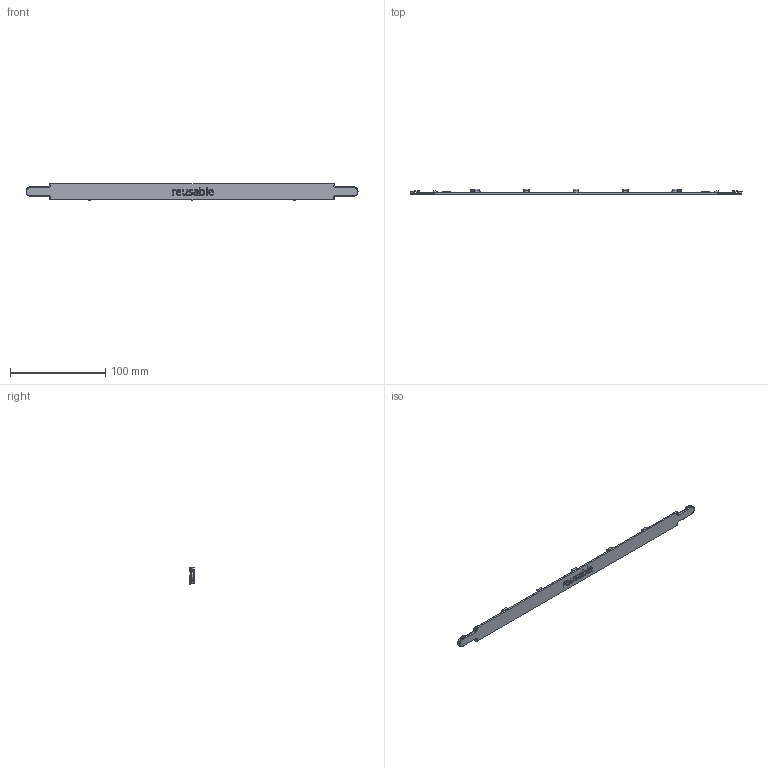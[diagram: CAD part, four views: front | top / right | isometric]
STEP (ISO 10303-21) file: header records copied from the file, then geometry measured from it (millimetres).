
FILE_DESCRIPTION(/* description */ (''),/* implementation_level */ '2;1');
FILE_NAME(/* name */ '3DS_FA~3',/* time_stamp */ '2020-04-08T10:02:11-07:00',/* author */ (''),/* organization */ (''),/* preprocessor_version */ 'ST-DEVELOPER v16.5',/* originating_system */ '',/* authorisation */ '');
FILE_SCHEMA (('AUTOMOTIVE_DESIGN'));
Length unit declared in the file: millimetre
Products named in the file (1): Document
Bounding box: 348.98 x 5.4 x 17.41 mm (x, y, z)
Volume: 12078.8 mm3; surface area: 13669.4 mm2
Topology: 1 solids, 1 shells, 597 faces, 1551 edges, 954 vertices
Faces by surface type: bspline 406, plane 191
Entity records: 30609 total; most frequent: CARTESIAN_POINT 21366, ORIENTED_EDGE 3058, EDGE_CURVE 1529, B_SPLINE_CURVE_WITH_KNOTS 1138, VERTEX_POINT 954, EDGE_LOOP 617, ADVANCED_FACE 597, FACE_OUTER_BOUND 597
